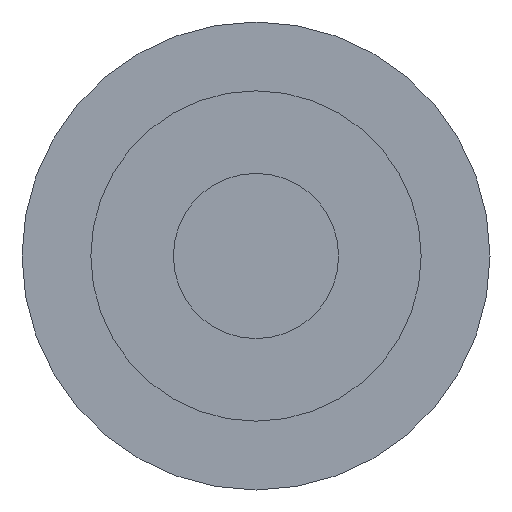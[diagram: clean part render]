
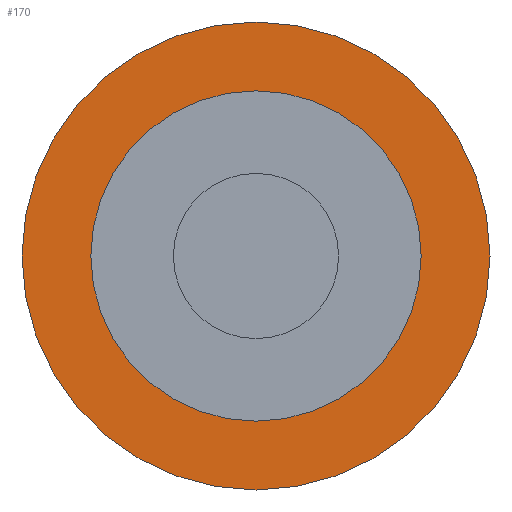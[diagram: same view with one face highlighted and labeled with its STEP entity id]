
A CAD part, front view. The second image highlights one B-rep face of the part: STEP entity #170.
In plain terms, the highlighted planar face has unit normal (0, -1, 0).
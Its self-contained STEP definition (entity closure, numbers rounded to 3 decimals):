
#41=FACE_BOUND('',#72,.T.);
#54=FACE_OUTER_BOUND('',#71,.T.);
#71=EDGE_LOOP('',(#149));
#72=EDGE_LOOP('',(#150));
#82=CIRCLE('',#206,1.5);
#84=CIRCLE('',#209,4.25);
#94=VERTEX_POINT('',#303);
#96=VERTEX_POINT('',#309);
#111=EDGE_CURVE('',#94,#94,#82,.T.);
#114=EDGE_CURVE('',#96,#96,#84,.T.);
#149=ORIENTED_EDGE('',*,*,#114,.F.);
#150=ORIENTED_EDGE('',*,*,#111,.F.);
#157=PLANE('',#211);
#170=ADVANCED_FACE('',(#54,#41),#157,.F.);
#206=AXIS2_PLACEMENT_3D('',#305,#257,#258);
#209=AXIS2_PLACEMENT_3D('',#311,#264,#265);
#211=AXIS2_PLACEMENT_3D('',#313,#268,#269);
#257=DIRECTION('center_axis',(0.,-1.,0.));
#258=DIRECTION('ref_axis',(-1.,0.,0.));
#264=DIRECTION('center_axis',(0.,1.,0.));
#265=DIRECTION('ref_axis',(-1.,0.,0.));
#268=DIRECTION('center_axis',(0.,1.,0.));
#269=DIRECTION('ref_axis',(-1.,0.,0.));
#303=CARTESIAN_POINT('',(1.5,20.,0.));
#305=CARTESIAN_POINT('Origin',(0.,20.,0.));
#309=CARTESIAN_POINT('',(4.25,20.,0.));
#311=CARTESIAN_POINT('Origin',(0.,20.,0.));
#313=CARTESIAN_POINT('Origin',(0.,20.,0.));
